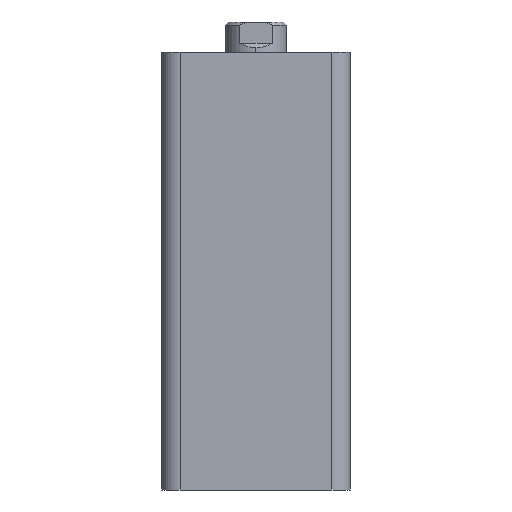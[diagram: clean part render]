
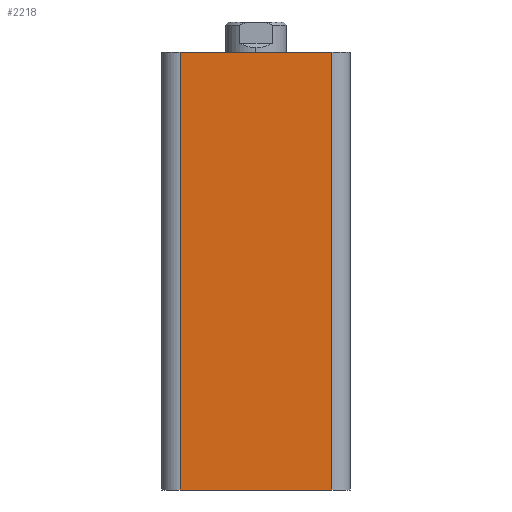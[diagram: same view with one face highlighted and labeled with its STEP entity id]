
A CAD part, left-side view. The second image highlights one B-rep face of the part: STEP entity #2218.
In plain terms, the highlighted planar face has unit normal (-1, 0, 0).
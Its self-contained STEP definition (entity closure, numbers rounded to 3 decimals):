
#444 = CARTESIAN_POINT ( 'NONE',  ( -31., -25., 144. ) ) ;
#457 = CARTESIAN_POINT ( 'NONE',  ( -31., 25., 144. ) ) ;
#464 = CARTESIAN_POINT ( 'NONE',  ( -31., -25., 0. ) ) ;
#476 = CARTESIAN_POINT ( 'NONE',  ( -31., 25., 0. ) ) ;
#1060 = EDGE_LOOP ( 'NONE', ( #3638, #3639, #3640, #3641 ) ) ;
#1300 = AXIS2_PLACEMENT_3D ( 'NONE', #4244, #4229, #4227 ) ;
#1550 = FACE_OUTER_BOUND ( 'NONE', #1060, .T. ) ;
#1761 = LINE ( 'NONE', #2639, #1763 ) ;
#1763 = VECTOR ( 'NONE', #2640, 1000. ) ;
#1800 = LINE ( 'NONE', #4580, #1804 ) ;
#1804 = VECTOR ( 'NONE', #4578, 1000. ) ;
#1818 = LINE ( 'NONE', #4604, #1821 ) ;
#1820 = LINE ( 'NONE', #4606, #1823 ) ;
#1821 = VECTOR ( 'NONE', #4605, 1000. ) ;
#1823 = VECTOR ( 'NONE', #4607, 1000. ) ;
#2218 = ADVANCED_FACE ( 'NONE', ( #1550 ), #4233, .F. ) ;
#2639 = CARTESIAN_POINT ( 'NONE',  ( -31., 31., 144. ) ) ;
#2640 = DIRECTION ( 'NONE',  ( 0., -1., 0. ) ) ;
#3220 = EDGE_CURVE ( 'NONE', #4079, #4066, #1761, .T. ) ;
#3255 = EDGE_CURVE ( 'NONE', #4099, #4086, #1800, .T. ) ;
#3265 = EDGE_CURVE ( 'NONE', #4086, #4066, #1818, .T. ) ;
#3266 = EDGE_CURVE ( 'NONE', #4079, #4099, #1820, .T. ) ;
#3638 = ORIENTED_EDGE ( 'NONE', *, *, #3255, .T. ) ;
#3639 = ORIENTED_EDGE ( 'NONE', *, *, #3265, .T. ) ;
#3640 = ORIENTED_EDGE ( 'NONE', *, *, #3220, .F. ) ;
#3641 = ORIENTED_EDGE ( 'NONE', *, *, #3266, .T. ) ;
#4066 = VERTEX_POINT ( 'NONE', #444 ) ;
#4079 = VERTEX_POINT ( 'NONE', #457 ) ;
#4086 = VERTEX_POINT ( 'NONE', #464 ) ;
#4099 = VERTEX_POINT ( 'NONE', #476 ) ;
#4227 = DIRECTION ( 'NONE',  ( 0., 0., -1. ) ) ;
#4229 = DIRECTION ( 'NONE',  ( 1., 0., 0. ) ) ;
#4233 = PLANE ( 'NONE',  #1300 ) ;
#4244 = CARTESIAN_POINT ( 'NONE',  ( -31., 31., 144. ) ) ;
#4578 = DIRECTION ( 'NONE',  ( 0., -1., 0. ) ) ;
#4580 = CARTESIAN_POINT ( 'NONE',  ( -31., 31., 0. ) ) ;
#4604 = CARTESIAN_POINT ( 'NONE',  ( -31., -25., 144. ) ) ;
#4605 = DIRECTION ( 'NONE',  ( 0., 0., 1. ) ) ;
#4606 = CARTESIAN_POINT ( 'NONE',  ( -31., 25., 144. ) ) ;
#4607 = DIRECTION ( 'NONE',  ( 0., 0., -1. ) ) ;
